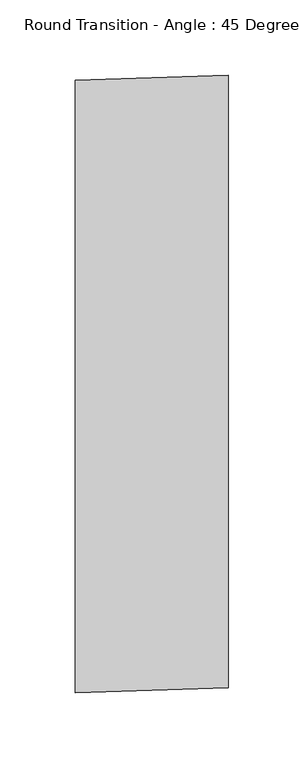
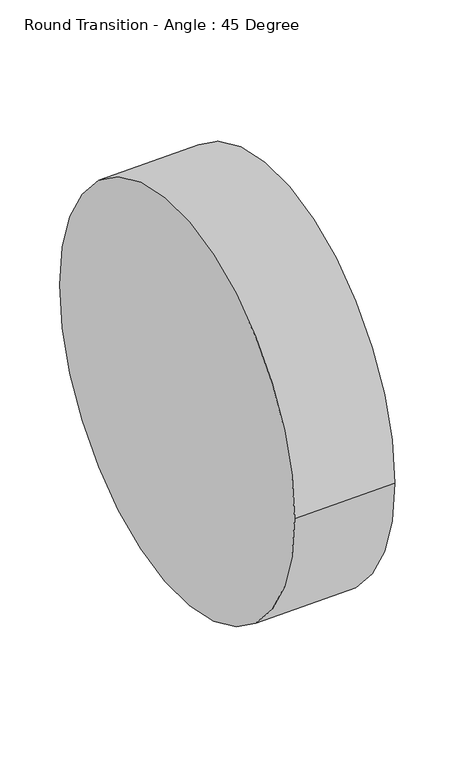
"""IFC4 building model written with IfcOpenShell, lengths in millimetres: duct fitting geometry, Round Transition - Angle : 45 Degree."""

from ifc_helpers import new_model, si_unit, point, frame, origin, place, context, project, spatial, circle_curve, trimmed, source, transform, mapped, element, save
from ifc_brep_helpers import plane_surface, extruded_surface, advanced_brep


def round_transition_angle_45_degree_dc686760(model_context):
    return source(origin(), model_context, "Body", "AdvancedBrep", [
        advanced_brep(
        [(101.6, -200.0790175, 0.0), (101.6, 206.3209825, 0.0), (0.0, -203.2, 0.0), (0.0, 203.2, 0.0)],
        [
            (0, 1, circle_curve(frame((101.6, 3.1209825, 0.0), z_axis=(1.0, 0.0, 0.0), x_axis=(0.0, 1.0, 0.0)), 203.2)),
            (1, 0, circle_curve(frame((101.6, 3.1209825, 0.0), z_axis=(1.0, 0.0, 0.0), x_axis=(0.0, 1.0, 0.0)), 203.2)),
            (2, 3, circle_curve(frame((0.0, 0.0, 0.0), z_axis=(-1.0, 0.0, 0.0), x_axis=(0.0, 1.0, 0.0)), 203.2)),
            (3, 2, circle_curve(frame((0.0, 0.0, 0.0), z_axis=(-1.0, 0.0, 0.0), x_axis=(0.0, 1.0, 0.0)), 203.2)),
            (3, 1),
            (0, 2),
        ],
        [
            plane_surface(frame((101.6, 3.1209825, 0.0), z_axis=(1.0, 0.0, 0.0), x_axis=(0.0, 0.0, -1.0))),
            plane_surface(frame((0.0, 0.0, 0.0), z_axis=(-1.0, 0.0, 0.0), x_axis=(0.0, 0.0, -1.0))),
            extruded_surface(trimmed(circle_curve(frame((0.0, 0.0, 0.0), z_axis=(1.0, 0.0, 0.0), x_axis=(0.0, 1.0, 0.0)), 203.2), [point((0.0, -203.2, 0.0))], [point((0.0, 203.2, 0.0))], True, "CARTESIAN"), (101.6, 3.1209825, 0.0), 101.64792438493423),
            extruded_surface(trimmed(circle_curve(frame((0.0, 0.0, 0.0), z_axis=(1.0, 0.0, 0.0), x_axis=(0.0, 1.0, 0.0)), 203.2), [point((0.0, 203.2, 0.0))], [point((0.0, -203.2, 0.0))], True, "CARTESIAN"), (101.6, 3.1209825, 0.0), 101.64792438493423),
        ],
        [
            (0, [[1, 2]]),
            (1, [[3, 4]]),
            (2, [[-4, 5, -1, 6]]),
            (3, [[-3, -6, -2, -5]]),
        ],
    ),
    ])


if __name__ == "__main__":
    model = new_model("IFC4")
    model_context = context("Model", 3, world=origin())
    ifc_project = project(units=[si_unit("LENGTHUNIT", "METRE", prefix="MILLI")], contexts=[model_context])
    site = spatial("IfcSite", under=ifc_project)
    building = spatial("IfcBuilding", under=site)
    placement = place(None, origin())
    round_transition_angle_45_degree_shape = round_transition_angle_45_degree_dc686760(model_context)
    element("IfcDuctFitting", 1, ObjectType="Round Transition - Angle : 45 Degree", at=placement, inside=building, context=model_context, shape_type="MappedRepresentation", body=[
        mapped(round_transition_angle_45_degree_shape, transform((0.0, 0.0, 0.0), x_axis=(1.0, 0.0, 0.0), y_axis=(0.0, 1.0, 0.0), z_axis=(0.0, 0.0, 1.0))),
    ])
    save(model, "model.ifc")
